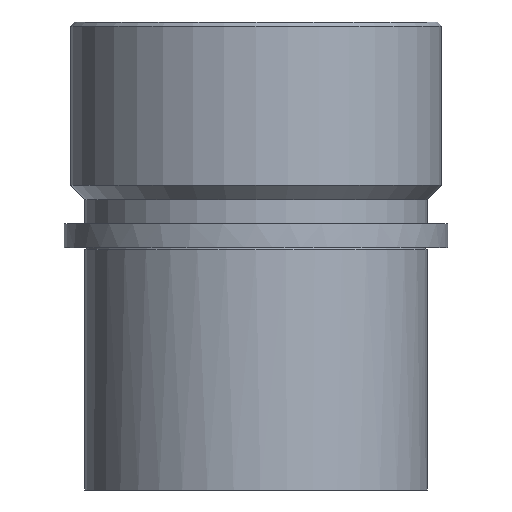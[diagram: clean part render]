
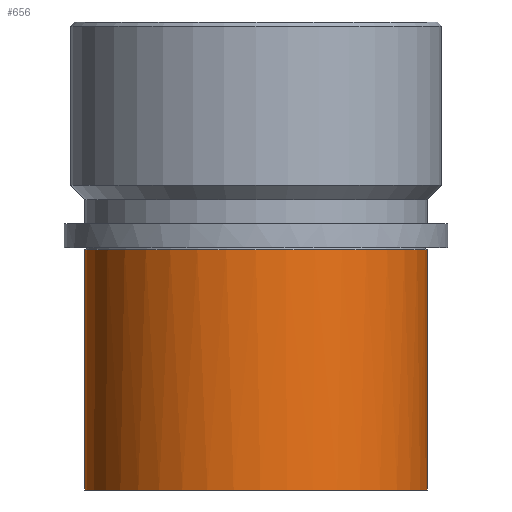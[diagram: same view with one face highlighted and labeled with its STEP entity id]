
A CAD part, front view. The second image highlights one B-rep face of the part: STEP entity #656.
In plain terms, the highlighted cylindrical face has radius 42.5 mm (diameter 85 mm), a partial arc.
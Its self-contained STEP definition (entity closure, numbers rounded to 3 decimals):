
#431=CARTESIAN_POINT('Control Point',(-42.5,0.,-60.)) ;
#432=CARTESIAN_POINT('Control Point',(-42.5,-4.152,-60.)) ;
#433=CARTESIAN_POINT('Control Point',(-41.993,-8.304,-60.)) ;
#434=CARTESIAN_POINT('Control Point',(-40.979,-12.373,-60.)) ;
#435=CARTESIAN_POINT('Control Point',(-37.978,-20.182,-60.)) ;
#436=CARTESIAN_POINT('Control Point',(-33.186,-27.038,-60.)) ;
#437=CARTESIAN_POINT('Control Point',(-30.381,-30.156,-60.)) ;
#438=CARTESIAN_POINT('Control Point',(-24.066,-35.643,-60.)) ;
#439=CARTESIAN_POINT('Control Point',(-16.617,-39.449,-60.)) ;
#440=CARTESIAN_POINT('Control Point',(-12.677,-40.886,-60.)) ;
#441=CARTESIAN_POINT('Control Point',(-4.526,-42.768,-60.)) ;
#442=CARTESIAN_POINT('Control Point',(3.838,-42.634,-60.)) ;
#443=CARTESIAN_POINT('Control Point',(7.992,-42.053,-60.)) ;
#444=CARTESIAN_POINT('Control Point',(16.073,-39.891,-60.)) ;
#445=CARTESIAN_POINT('Control Point',(23.396,-35.847,-60.)) ;
#446=CARTESIAN_POINT('Control Point',(26.791,-33.385,-60.)) ;
#447=CARTESIAN_POINT('Control Point',(32.912,-27.683,-60.)) ;
#448=CARTESIAN_POINT('Control Point',(37.481,-20.676,-60.)) ;
#449=CARTESIAN_POINT('Control Point',(39.325,-16.909,-60.)) ;
#450=CARTESIAN_POINT('Control Point',(41.279,-11.248,-60.)) ;
#451=CARTESIAN_POINT('Control Point',(42.217,-5.37,-60.)) ;
#452=CARTESIAN_POINT('Control Point',(42.406,-3.585,-60.)) ;
#453=CARTESIAN_POINT('Control Point',(42.5,-1.792,-60.)) ;
#454=CARTESIAN_POINT('Control Point',(42.5,0.,-60.)) ;
#455=CARTESIAN_POINT('Vertex',(-42.5,0.,-60.)) ;
#457=CARTESIAN_POINT('Vertex',(42.5,0.,-60.)) ;
#626=CARTESIAN_POINT('Axis2P3D Location',(0.,0.,56.)) ;
#631=CARTESIAN_POINT('Line Origine',(42.5,0.,56.)) ;
#635=CARTESIAN_POINT('Vertex',(42.5,0.,-0.5)) ;
#638=CARTESIAN_POINT('Axis2P3D Location',(0.,0.,-0.5)) ;
#642=CARTESIAN_POINT('Vertex',(-42.5,0.,-0.5)) ;
#645=CARTESIAN_POINT('Line Origine',(-42.5,0.,56.)) ;
#627=DIRECTION('Axis2P3D Direction',(0.,0.,-1.)) ;
#628=DIRECTION('Axis2P3D XDirection',(1.,0.,0.)) ;
#632=DIRECTION('Vector Direction',(0.,0.,-1.)) ;
#639=DIRECTION('Axis2P3D Direction',(0.,0.,-1.)) ;
#646=DIRECTION('Vector Direction',(0.,0.,-1.)) ;
#629=AXIS2_PLACEMENT_3D('Cylinder Axis2P3D',#626,#627,#628) ;
#640=AXIS2_PLACEMENT_3D('Circle Axis2P3D',#638,#639,$) ;
#651=ORIENTED_EDGE('',*,*,#637,.T.) ;
#652=ORIENTED_EDGE('',*,*,#644,.F.) ;
#653=ORIENTED_EDGE('',*,*,#649,.T.) ;
#654=ORIENTED_EDGE('',*,*,#459,.T.) ;
#633=VECTOR('Line Direction',#632,1.) ;
#647=VECTOR('Line Direction',#646,1.) ;
#656=ADVANCED_FACE('741-60',(#655),#630,.T.) ;
#430=B_SPLINE_CURVE_WITH_KNOTS('',5,(#431,#432,#433,#434,#435,#436,#437,#438,#439,#440,#441,#442,#443,#444,#445,#446,#447,#448,#449,#450,#451,#452,#453,#454),.UNSPECIFIED.,.F.,.U.,(6,3,3,3,3,3,3,6),(0.,29.358,58.716,88.073,117.431,146.789,176.147,188.821),.UNSPECIFIED.) ;
#641=CIRCLE('generated circle',#640,42.5) ;
#630=CYLINDRICAL_SURFACE('generated cylinder',#629,42.5) ;
#459=EDGE_CURVE('',#456,#458,#430,.T.) ;
#637=EDGE_CURVE('',#458,#636,#634,.F.) ;
#644=EDGE_CURVE('',#643,#636,#641,.F.) ;
#649=EDGE_CURVE('',#643,#456,#648,.T.) ;
#650=EDGE_LOOP('',(#651,#652,#653,#654)) ;
#655=FACE_OUTER_BOUND('',#650,.T.) ;
#634=LINE('Line',#631,#633) ;
#648=LINE('Line',#645,#647) ;
#456=VERTEX_POINT('',#455) ;
#458=VERTEX_POINT('',#457) ;
#636=VERTEX_POINT('',#635) ;
#643=VERTEX_POINT('',#642) ;
